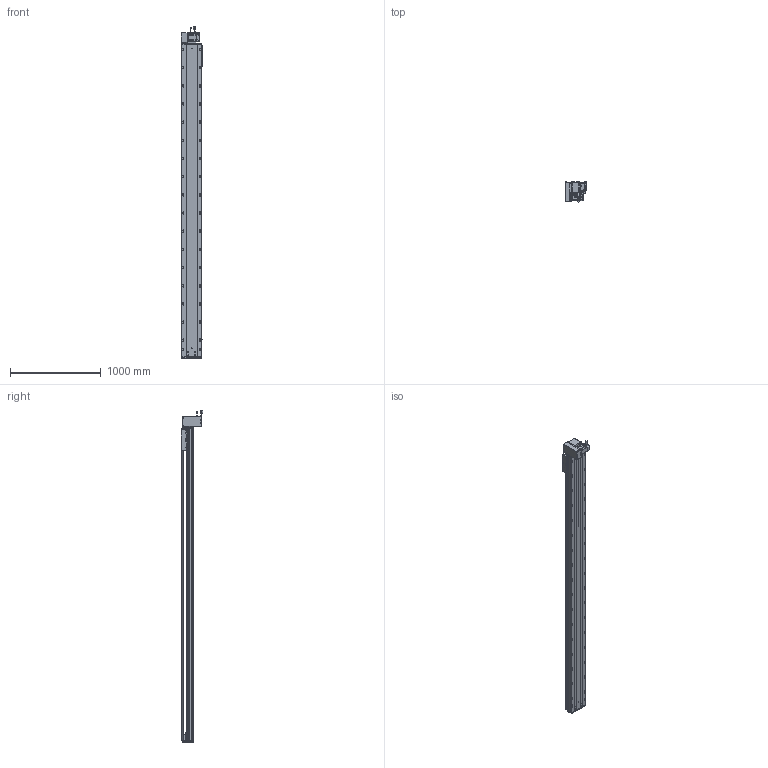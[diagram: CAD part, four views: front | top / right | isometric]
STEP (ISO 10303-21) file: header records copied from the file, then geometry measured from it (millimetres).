
FILE_DESCRIPTION (( 'STEP AP203' ), '1' );
FILE_NAME ('RY220-T-300-DL.SLDASM_3100.step', '2022-07-25T07:55:38', ( '' ), ( '' ), 'SwSTEP 2.0', 'SolidWorks 2016', '' );
FILE_SCHEMA (( 'CONFIG_CONTROL_DESIGN' ));
Length unit declared in the file: millimetre
Products named in the file (14): RY220圉猾敕々湍臏賑輸; 怢湛750W_ECMA-CX0807ES; RY220-T-300-DL.SLDASM_3100; RY220-同步轮副支撑座6304×2; RY220-T-300-奻裔啣_3100; RY220-T菁釱-300_3100; RY220-T-蛌殏萇儂假蚾啣(750W); 滅袉蝶18-15; RY220-T-湍謫欶(鍼踢); RY220-俋离672覜茼んえ; RY220翋肮祭謫釱; 110A-T-肮祭謫釱傷裔; 覜茼ん672; RY220翋肮祭謫裔啣
Assembly tree (18 placements, depth 2):
  RY220-T-300-DL.SLDASM_3100
    RY220-T菁釱-300_3100
    RY220翋肮祭謫釱
    覜茼ん672  x3
    RY220圉猾敕々湍臏賑輸
    RY220-T-300-奻裔啣_3100
    RY220-俋离672覜茼んえ
    滅袉蝶18-15  x3
    RY220翋肮祭謫裔啣  x2
    110A-T-肮祭謫釱傷裔
    怢湛750W_ECMA-CX0807ES
    RY220-T-湍謫欶(鍼踢)
    RY220-T-蛌殏萇儂假蚾啣(750W)
    RY220-同步轮副支撑座6304×2
Bounding box: 239.7 x 240.74 x 3653.27 mm (x, y, z)
Volume: 25848653.1 mm3; surface area: 8010589.9 mm2
Topology: 19 solids, 19 shells, 3058 faces, 8463 edges, 5292 vertices
Faces by surface type: cylinder 1518, plane 1069, cone 389, bspline 56, sphere 16, torus 10
Entity records: 102035 total; most frequent: CARTESIAN_POINT 28749, ORIENTED_EDGE 15130, DIRECTION 14648, EDGE_CURVE 7565, AXIS2_PLACEMENT_3D 5300, VERTEX_POINT 4916, LINE 4048, VECTOR 4048
